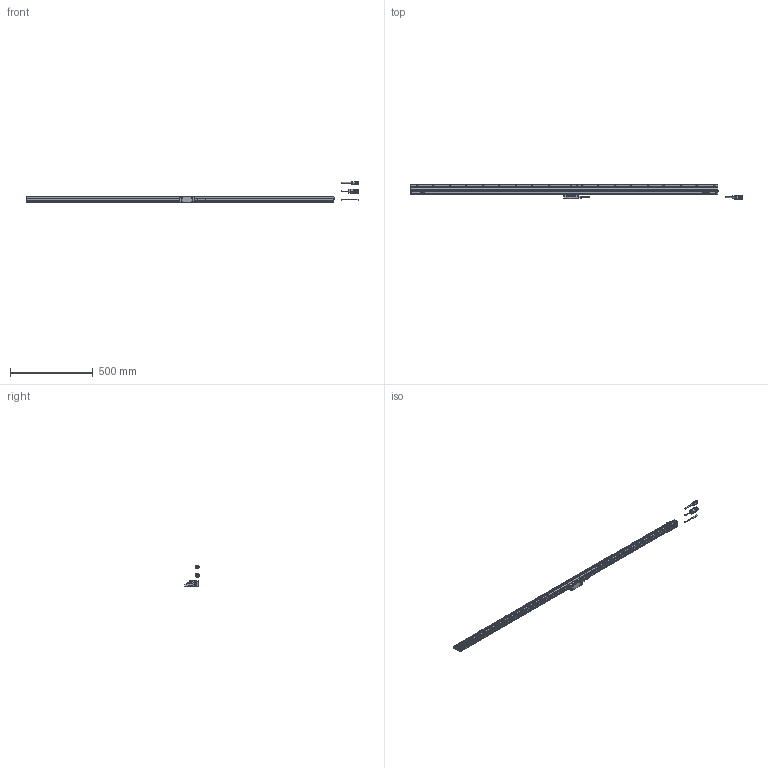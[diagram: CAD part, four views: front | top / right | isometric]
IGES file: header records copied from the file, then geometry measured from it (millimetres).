
Start section: Elysium IGES Interface
Global section: file name: 66H\\Utsu119s\kiyo_cad\data\3D\AT402E\HP掲載用_201708\AT402E-1740.igs; native system: Creo Elements/Direct Modeling 18.1B  29-Sep-2012; preprocessor: Creo Element/Direct IGES_3D V2.2; author: Unknown; organization: Unknown; date: 20180221.131418; units: millimetre
Bounding box: 2009.57 x 90 x 130.25 mm (x, y, z)
Volume: 3099175.4 mm3; surface area: 401802.3 mm2
Topology: 5 solids, 5 shells, 1483 faces, 4404 edges, 2971 vertices
Faces by surface type: bspline 1483
